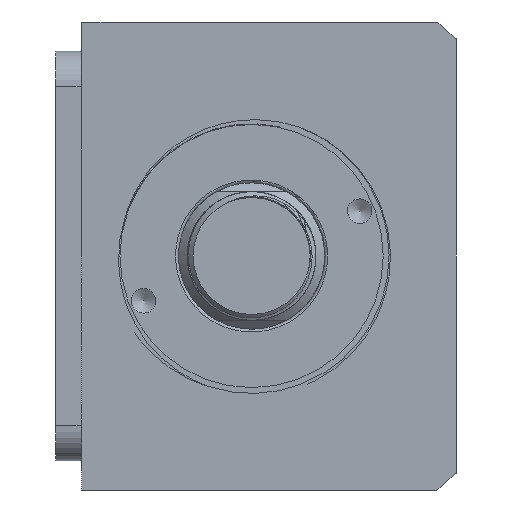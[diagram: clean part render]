
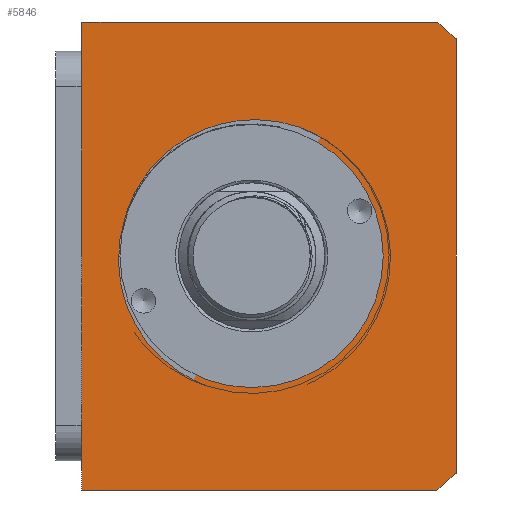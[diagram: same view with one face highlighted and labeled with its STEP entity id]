
A CAD part, front view. The second image highlights one B-rep face of the part: STEP entity #5846.
In plain terms, the highlighted planar face has unit normal (0, -1, 0).
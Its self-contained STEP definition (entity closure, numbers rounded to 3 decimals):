
#541=LINE('',#19750,#1498);
#553=LINE('',#19934,#1510);
#577=LINE('',#19987,#1534);
#584=LINE('',#20007,#1541);
#1498=VECTOR('',#13208,1.);
#1510=VECTOR('',#13280,1.);
#1534=VECTOR('',#13310,1.);
#1541=VECTOR('',#13327,1.);
#4907=PLANE('',#12639);
#5846=ADVANCED_FACE('',(#6460,#6461),#4907,.T.);
#6339=CIRCLE('',#12628,22.5);
#6345=CIRCLE('',#12637,51.);
#6346=CIRCLE('',#12638,51.);
#6460=FACE_BOUND('',#6642,.T.);
#6461=FACE_BOUND('',#6643,.T.);
#6642=EDGE_LOOP('',(#7543));
#6643=EDGE_LOOP('',(#7544,#7545,#7546,#7547,#7548,#7549));
#7543=ORIENTED_EDGE('',*,*,#11018,.F.);
#7544=ORIENTED_EDGE('',*,*,#11021,.T.);
#7545=ORIENTED_EDGE('',*,*,#11056,.T.);
#7546=ORIENTED_EDGE('',*,*,#11047,.T.);
#7547=ORIENTED_EDGE('',*,*,#11057,.T.);
#7548=ORIENTED_EDGE('',*,*,#10988,.T.);
#7549=ORIENTED_EDGE('',*,*,#11058,.T.);
#10010=VERTEX_POINT('',#19749);
#10011=VERTEX_POINT('',#19751);
#10039=VERTEX_POINT('',#19927);
#10041=VERTEX_POINT('',#19932);
#10043=VERTEX_POINT('',#19935);
#10068=VERTEX_POINT('',#19986);
#10069=VERTEX_POINT('',#19988);
#10988=EDGE_CURVE('',#10011,#10010,#541,.T.);
#11018=EDGE_CURVE('',#10039,#10039,#6339,.T.);
#11021=EDGE_CURVE('',#10043,#10041,#553,.T.);
#11047=EDGE_CURVE('',#10069,#10068,#577,.T.);
#11056=EDGE_CURVE('',#10041,#10069,#6345,.T.);
#11057=EDGE_CURVE('',#10068,#10011,#6346,.T.);
#11058=EDGE_CURVE('',#10010,#10043,#584,.T.);
#12628=AXIS2_PLACEMENT_3D('',#19926,#13273,#13274);
#12637=AXIS2_PLACEMENT_3D('',#20005,#13323,#13324);
#12638=AXIS2_PLACEMENT_3D('',#20006,#13325,#13326);
#12639=AXIS2_PLACEMENT_3D('',#20008,#13328,#13329);
#13208=DIRECTION('',(-1.,0.,0.));
#13273=DIRECTION('',(0.,-1.,0.));
#13274=DIRECTION('',(0.,0.,1.));
#13280=DIRECTION('',(1.,0.,0.));
#13310=DIRECTION('',(0.,0.,1.));
#13323=DIRECTION('',(0.,-1.,0.));
#13324=DIRECTION('',(0.,0.,1.));
#13325=DIRECTION('',(0.,-1.,0.));
#13326=DIRECTION('',(0.,0.,1.));
#13327=DIRECTION('',(0.,0.,-1.));
#13328=DIRECTION('',(0.,-1.,0.));
#13329=DIRECTION('',(0.,0.,-1.));
#19749=CARTESIAN_POINT('',(-50.502,-7.078,40.));
#19750=CARTESIAN_POINT('',(-50.502,-7.078,40.));
#19751=CARTESIAN_POINT('',(10.136,-7.078,40.));
#19926=CARTESIAN_POINT('',(-21.502,-7.078,0.));
#19927=CARTESIAN_POINT('',(-21.502,-7.078,22.5));
#19932=CARTESIAN_POINT('',(10.136,-7.078,-40.));
#19934=CARTESIAN_POINT('',(-50.502,-7.078,-40.));
#19935=CARTESIAN_POINT('',(-50.502,-7.078,-40.));
#19986=CARTESIAN_POINT('',(13.498,-7.078,37.094));
#19987=CARTESIAN_POINT('',(13.498,-7.078,-40.));
#19988=CARTESIAN_POINT('',(13.498,-7.078,-37.094));
#20005=CARTESIAN_POINT('',(-21.502,-7.078,0.));
#20006=CARTESIAN_POINT('',(-21.502,-7.078,0.));
#20007=CARTESIAN_POINT('',(-50.502,-7.078,-40.));
#20008=CARTESIAN_POINT('',(-62.009,-7.078,0.));
